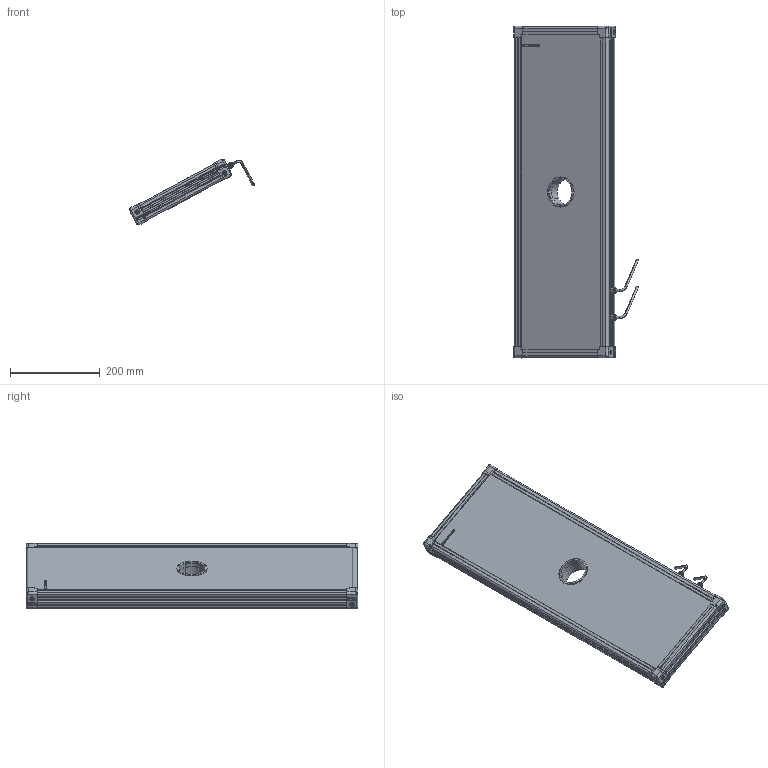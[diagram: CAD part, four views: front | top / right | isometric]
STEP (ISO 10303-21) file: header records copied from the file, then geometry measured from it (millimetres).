
FILE_DESCRIPTION (( 'STEP AP214' ), '1' );
FILE_NAME ('EFFI-BL-200-700-ZZZ-2M12.STEP', '2021-06-21T11:04:20', ( '' ), ( '' ), 'SwSTEP 2.0', 'SolidWorks 2021', '' );
FILE_SCHEMA (( 'AUTOMOTIVE_DESIGN' ));
Length unit declared in the file: millimetre
Products named in the file (13): Pièce13^EFFI-BL-XXX-YYY-ZZZ (2 connecteurs) Ø58.5; 000629; profile Y_PERCE; cordon_Avec cable; Assemblage Ø58.5; EFFI-BL-200-700-ZZZ-2M12; 000590; profile X_PERCE; petite joue + vis; 001038; 001037; petite joue
Assembly tree (20 placements, depth 3):
  EFFI-BL-200-700-ZZZ-2M12
    profile X_PERCE  x2
    profile Y_PERCE
    profile Y_PERCE
    Pièce13^EFFI-BL-XXX-YYY-ZZZ (2 connecteurs) Ø58.5
    petite joue + vis  x4
      petite joue
      000629
    Assemblage Ø58.5
      001037
      001038
      000590  x3
    cordon_Avec cable  x2
Bounding box: 278.11 x 739 x 146.83 mm (x, y, z)
Volume: 6003335.4 mm3; surface area: 674903.2 mm2
Topology: 22 solids, 34 shells, 4044 faces, 10746 edges, 7052 vertices
Faces by surface type: plane 2495, cylinder 739, bspline 603, cone 154, torus 45, sphere 8
Entity records: 56929 total; most frequent: CARTESIAN_POINT 22745, ORIENTED_EDGE 7120, DIRECTION 5873, EDGE_CURVE 3564, LINE 2489, VECTOR 2489, VERTEX_POINT 2343, AXIS2_PLACEMENT_3D 1692
